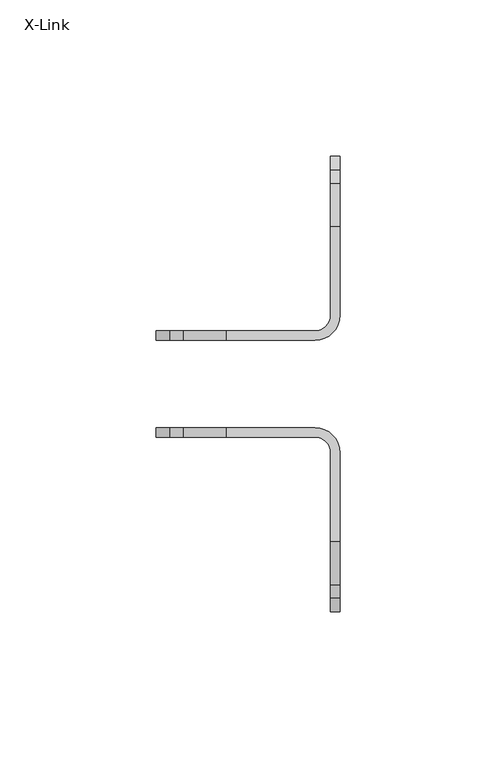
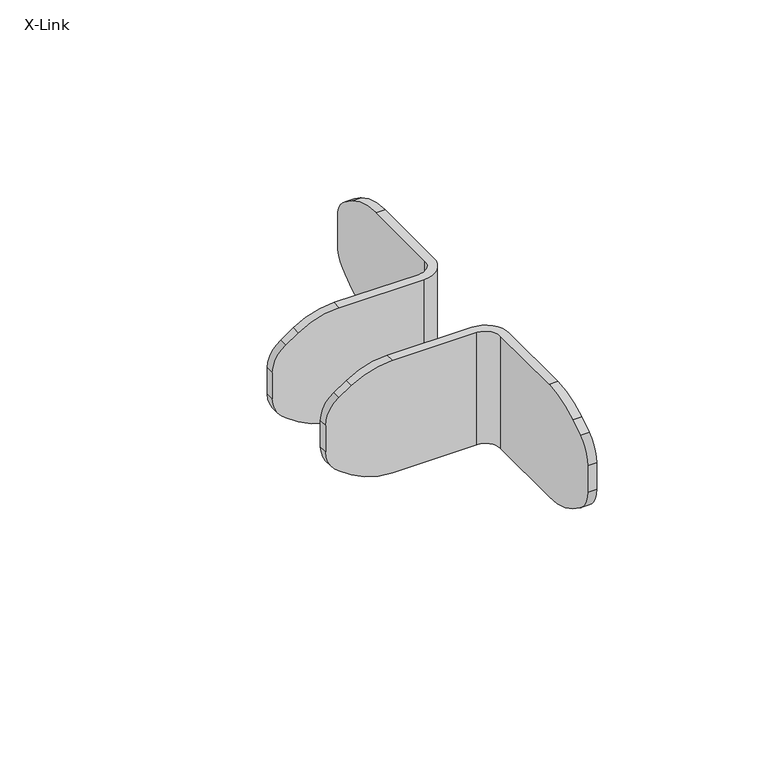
"""IFC4 building model written with IfcOpenShell, lengths in millimetres: furniture geometry, DBLTD_Sixteen3_PrivacyScreens_Artus_Bracket : X-Link."""

from ifc_helpers import new_model, si_unit, frame, origin, place, context, project, spatial, polyline, circle_curve, source, transform, mapped, element, save
from ifc_brep_helpers import plane_surface, cylinder_surface, revolved_surface, advanced_brep


def x_link_8aea4371(model_context):
    return source(origin(), model_context, "Body", "AdvancedBrep", [
        advanced_brep(
        [(-22.0, 803.0, 120.0), (-17.0, 798.0, 120.0), (-17.0, 769.5693909, 120.0), (-14.0, 769.5693909, 120.0), (-14.0, 798.0, 120.0), (-22.0, 806.0, 120.0), (-50.4306091, 806.0, 120.0), (-50.4306091, 803.0, 120.0), (-22.0, 806.0, 80.0), (-14.0, 798.0, 80.0), (-14.0, 769.5693909, 80.0), (-17.0, 769.5693909, 80.0), (-17.0, 798.0, 80.0), (-22.0, 803.0, 80.0), (-50.4306091, 803.0, 80.0), (-50.4306091, 806.0, 80.0), (-17.0, 755.701886, 84.1987426), (-17.0, 751.452998, 87.0313346), (-17.0, 747.0, 95.3518376), (-17.0, 747.0, 104.6481624), (-17.0, 751.452998, 112.9686654), (-17.0, 755.701886, 115.8012574), (-14.0, 747.0, 95.3518376), (-14.0, 747.0, 104.6481624), (-14.0, 755.701886, 115.8012574), (-14.0, 751.452998, 112.9686654), (-14.0, 751.452998, 87.0313346), (-14.0, 755.701886, 84.1987426), (-64.298114, 806.0, 84.1987426), (-68.547002, 806.0, 87.0313346), (-73.0, 806.0, 95.3518376), (-73.0, 806.0, 104.6481624), (-68.547002, 806.0, 112.9686654), (-64.298114, 806.0, 115.8012574), (-73.0, 803.0, 95.3518376), (-73.0, 803.0, 104.6481624), (-64.298114, 803.0, 115.8012574), (-68.547002, 803.0, 112.9686654), (-68.547002, 803.0, 87.0313346), (-64.298114, 803.0, 84.1987426)],
        [
            (0, 1, circle_curve(frame((-22.0, 798.0, 120.0), z_axis=(0.0, 0.0, -1.0), x_axis=(0.0, 1.0, 0.0)), 5.0)),
            (1, 2),
            (2, 3),
            (3, 4),
            (4, 5, circle_curve(frame((-22.0, 798.0, 120.0), z_axis=(0.0, 0.0, 1.0), x_axis=(0.0, 1.0, 0.0)), 8.0)),
            (5, 6),
            (6, 7),
            (7, 0),
            (8, 9, circle_curve(frame((-22.0, 798.0, 80.0), z_axis=(0.0, 0.0, -1.0), x_axis=(0.0, 1.0, 0.0)), 8.0)),
            (9, 10),
            (10, 11),
            (11, 12),
            (12, 13, circle_curve(frame((-22.0, 798.0, 80.0), z_axis=(0.0, 0.0, 1.0), x_axis=(0.0, 1.0, 0.0)), 5.0)),
            (13, 14),
            (14, 15),
            (15, 8),
            (0, 13),
            (12, 1),
            (11, 16, circle_curve(frame((-17.0, 769.5693909, 105.0), z_axis=(-1.0, 0.0, 0.0), x_axis=(0.0, 1.0, 0.0)), 25.0)),
            (16, 17),
            (17, 18, circle_curve(frame((-17.0, 757.0, 95.3518376), z_axis=(-1.0, 0.0, 0.0), x_axis=(0.0, 1.0, 0.0)), 10.0)),
            (18, 19),
            (19, 20, circle_curve(frame((-17.0, 757.0, 104.6481624), z_axis=(-1.0, 0.0, 0.0), x_axis=(0.0, 1.0, 0.0)), 10.0)),
            (20, 21),
            (21, 2, circle_curve(frame((-17.0, 769.5693909, 95.0), z_axis=(-1.0, 0.0, 0.0), x_axis=(0.0, 1.0, 0.0)), 25.0)),
            (18, 22),
            (22, 23),
            (23, 19),
            (9, 4),
            (3, 24, circle_curve(frame((-14.0, 769.5693909, 95.0), z_axis=(1.0, 0.0, 0.0), x_axis=(0.0, 1.0, 0.0)), 25.0)),
            (24, 25),
            (25, 23, circle_curve(frame((-14.0, 757.0, 104.6481624), z_axis=(1.0, 0.0, 0.0), x_axis=(0.0, 1.0, 0.0)), 10.0)),
            (22, 26, circle_curve(frame((-14.0, 757.0, 95.3518376), z_axis=(1.0, 0.0, 0.0), x_axis=(0.0, 1.0, 0.0)), 10.0)),
            (26, 27),
            (27, 10, circle_curve(frame((-14.0, 769.5693909, 105.0), z_axis=(1.0, 0.0, 0.0), x_axis=(0.0, 1.0, 0.0)), 25.0)),
            (8, 5),
            (15, 28, circle_curve(frame((-50.4306091, 806.0, 105.0), z_axis=(0.0, 1.0, 0.0), x_axis=(1.0, 0.0, 0.0)), 25.0)),
            (28, 29),
            (29, 30, circle_curve(frame((-63.0, 806.0, 95.3518376), z_axis=(0.0, 1.0, 0.0), x_axis=(1.0, 0.0, 0.0)), 10.0)),
            (30, 31),
            (31, 32, circle_curve(frame((-63.0, 806.0, 104.6481624), z_axis=(0.0, 1.0, 0.0), x_axis=(1.0, 0.0, 0.0)), 10.0)),
            (32, 33),
            (33, 6, circle_curve(frame((-50.4306091, 806.0, 95.0), z_axis=(0.0, 1.0, 0.0), x_axis=(1.0, 0.0, 0.0)), 25.0)),
            (30, 34),
            (34, 35),
            (35, 31),
            (7, 36, circle_curve(frame((-50.4306091, 803.0, 95.0), z_axis=(0.0, -1.0, 0.0), x_axis=(1.0, 0.0, 0.0)), 25.0)),
            (36, 37),
            (37, 35, circle_curve(frame((-63.0, 803.0, 104.6481624), z_axis=(0.0, -1.0, 0.0), x_axis=(1.0, 0.0, 0.0)), 10.0)),
            (34, 38, circle_curve(frame((-63.0, 803.0, 95.3518376), z_axis=(0.0, -1.0, 0.0), x_axis=(1.0, 0.0, 0.0)), 10.0)),
            (38, 39),
            (39, 14, circle_curve(frame((-50.4306091, 803.0, 105.0), z_axis=(0.0, -1.0, 0.0), x_axis=(1.0, 0.0, 0.0)), 25.0)),
            (39, 28),
            (38, 29),
            (37, 32),
            (36, 33),
            (17, 26),
            (16, 27),
            (21, 24),
            (20, 25),
        ],
        [
            plane_surface(frame((-22.0, 803.0, 120.0), z_axis=(0.0, 0.0, 1.0), x_axis=(1.0, 0.0, 0.0))),
            plane_surface(frame((-22.0, 803.0, 80.0), z_axis=(0.0, 0.0, -1.0), x_axis=(-1.0, 0.0, 0.0))),
            revolved_surface(polyline([(-22.0, 803.0, 80.0), (-22.0, 803.0, 120.0)]), (-22.0, 798.0, 80.0), (0.0, 0.0, -1.0)),
            plane_surface(frame((-17.0, 798.0, 120.0), z_axis=(-1.0, 0.0, 0.0), x_axis=(0.0, 0.0, -1.0))),
            plane_surface(frame((-17.0, 747.0, 120.0), z_axis=(0.0, -1.0, 0.0), x_axis=(0.0, 0.0, -1.0))),
            plane_surface(frame((-14.0, 747.0, 120.0), z_axis=(1.0, 0.0, 0.0), x_axis=(0.0, 0.0, -1.0))),
            cylinder_surface(frame((-22.0, 798.0, 80.0), z_axis=(0.0, 0.0, 1.0), x_axis=(0.0, 1.0, 0.0)), 8.0),
            plane_surface(frame((-22.0, 806.0, 120.0), z_axis=(0.0, 1.0, 0.0), x_axis=(0.0, 0.0, -1.0))),
            plane_surface(frame((-73.0, 806.0, 120.0), z_axis=(-1.0, 0.0, 0.0), x_axis=(0.0, 0.0, -1.0))),
            plane_surface(frame((-73.0, 803.0, 120.0), z_axis=(0.0, -1.0, 0.0), x_axis=(0.0, 0.0, -1.0))),
            cylinder_surface(frame((-50.4306091, 837.0, 105.0), z_axis=(0.0, 1.0, 0.0), x_axis=(1.0, 0.0, 0.0)), 25.0),
            plane_surface(frame((-64.298114, 803.0, 84.1987426), z_axis=(-0.5547001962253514, 0.0, -0.8320502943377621), x_axis=(0.0, 1.0, 0.0))),
            cylinder_surface(frame((-63.0, 837.0, 95.3518376), z_axis=(0.0, 1.0, 0.0), x_axis=(1.0, 0.0, 0.0)), 10.0),
            cylinder_surface(frame((-63.0, 0.0, 104.6481624), z_axis=(0.0, 1.0, 0.0), x_axis=(1.0, 0.0, 0.0)), 10.0),
            plane_surface(frame((-68.547002, 803.0, 112.9686654), z_axis=(-0.5547001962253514, 0.0, 0.8320502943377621), x_axis=(0.0, 1.0, 0.0))),
            cylinder_surface(frame((-50.4306091, 0.0, 95.0), z_axis=(0.0, 1.0, 0.0), x_axis=(1.0, 0.0, 0.0)), 25.0),
            cylinder_surface(frame((820.0, 757.0, 95.3518376), z_axis=(-1.0, 0.0, 0.0), x_axis=(0.0, 1.0, 0.0)), 10.0),
            plane_surface(frame((17.0, 755.701886, 84.1987426), z_axis=(0.0, -0.5547001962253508, -0.8320502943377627), x_axis=(-1.0, 0.0, 0.0))),
            cylinder_surface(frame((820.0, 769.5693909, 105.0), z_axis=(-1.0, 0.0, 0.0), x_axis=(0.0, 1.0, 0.0)), 25.0),
            cylinder_surface(frame((820.0, 769.5693909, 95.0), z_axis=(-1.0, 0.0, 0.0), x_axis=(0.0, 1.0, 0.0)), 25.0),
            plane_surface(frame((17.0, 751.452998, 112.9686654), z_axis=(0.0, -0.5547001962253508, 0.8320502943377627), x_axis=(-1.0, 0.0, 0.0))),
            cylinder_surface(frame((820.0, 757.0, 104.6481624), z_axis=(-1.0, 0.0, 0.0), x_axis=(0.0, 1.0, 0.0)), 10.0),
        ],
        [
            (0, [[1, 2, 3, 4, 5, 6, 7, 8]]),
            (1, [[9, 10, 11, 12, 13, 14, 15, 16]]),
            (2, [[-1, 17, -13, 18]]),
            (3, [[-18, -12, 19, 20, 21, 22, 23, 24, 25, -2]]),
            (4, [[-22, 26, 27, 28]]),
            (5, [[29, -4, 30, 31, 32, -27, 33, 34, 35, -10]]),
            (6, [[-5, -29, -9, 36]]),
            (7, [[-36, -16, 37, 38, 39, 40, 41, 42, 43, -6]]),
            (8, [[-40, 44, 45, 46]]),
            (9, [[-17, -8, 47, 48, 49, -45, 50, 51, 52, -14]]),
            (10, [[53, -37, -15, -52]]),
            (11, [[-53, -51, 54, -38]]),
            (12, [[-54, -50, -44, -39]]),
            (13, [[55, -41, -46, -49]]),
            (14, [[-55, -48, 56, -42]]),
            (15, [[-56, -47, -7, -43]]),
            (16, [[57, -33, -26, -21]]),
            (17, [[-57, -20, 58, -34]]),
            (18, [[-58, -19, -11, -35]]),
            (19, [[59, -30, -3, -25]]),
            (20, [[-59, -24, 60, -31]]),
            (21, [[-60, -23, -28, -32]]),
        ],
    ),
        advanced_brep(
        [(-17.0, 842.0, 120.0), (-22.0, 837.0, 120.0), (-50.4306091, 837.0, 120.0), (-50.4306091, 834.0, 120.0), (-22.0, 834.0, 120.0), (-14.0, 842.0, 120.0), (-14.0, 870.4306091, 120.0), (-17.0, 870.4306091, 120.0), (-14.0, 842.0, 80.0), (-22.0, 834.0, 80.0), (-50.4306091, 834.0, 80.0), (-50.4306091, 837.0, 80.0), (-22.0, 837.0, 80.0), (-17.0, 842.0, 80.0), (-17.0, 870.4306091, 80.0), (-14.0, 870.4306091, 80.0), (-64.298114, 837.0, 84.1987426), (-68.547002, 837.0, 87.0313346), (-73.0, 837.0, 95.3518376), (-73.0, 837.0, 104.6481624), (-68.547002, 837.0, 112.9686654), (-64.298114, 837.0, 115.8012574), (-73.0, 834.0, 95.3518376), (-73.0, 834.0, 104.6481624), (-64.298114, 834.0, 115.8012574), (-68.547002, 834.0, 112.9686654), (-68.547002, 834.0, 87.0313346), (-64.298114, 834.0, 84.1987426), (-14.0, 884.298114, 84.1987426), (-14.0, 888.547002, 87.0313346), (-14.0, 893.0, 95.3518376), (-14.0, 893.0, 104.6481624), (-14.0, 888.547002, 112.9686654), (-14.0, 884.298114, 115.8012574), (-17.0, 893.0, 95.3518376), (-17.0, 893.0, 104.6481624), (-17.0, 884.298114, 115.8012574), (-17.0, 888.547002, 112.9686654), (-17.0, 888.547002, 87.0313346), (-17.0, 884.298114, 84.1987426)],
        [
            (0, 1, circle_curve(frame((-22.0, 842.0, 120.0), z_axis=(0.0, 0.0, -1.0), x_axis=(1.0, 0.0, 0.0)), 5.0)),
            (1, 2),
            (2, 3),
            (3, 4),
            (4, 5, circle_curve(frame((-22.0, 842.0, 120.0), z_axis=(0.0, 0.0, 1.0), x_axis=(1.0, 0.0, 0.0)), 8.0)),
            (5, 6),
            (6, 7),
            (7, 0),
            (8, 9, circle_curve(frame((-22.0, 842.0, 80.0), z_axis=(0.0, 0.0, -1.0), x_axis=(1.0, 0.0, 0.0)), 8.0)),
            (9, 10),
            (10, 11),
            (11, 12),
            (12, 13, circle_curve(frame((-22.0, 842.0, 80.0), z_axis=(0.0, 0.0, 1.0), x_axis=(1.0, 0.0, 0.0)), 5.0)),
            (13, 14),
            (14, 15),
            (15, 8),
            (0, 13),
            (12, 1),
            (11, 16, circle_curve(frame((-50.4306091, 837.0, 105.0), z_axis=(0.0, 1.0, 0.0), x_axis=(1.0, 0.0, 0.0)), 25.0)),
            (16, 17),
            (17, 18, circle_curve(frame((-63.0, 837.0, 95.3518376), z_axis=(0.0, 1.0, 0.0), x_axis=(1.0, 0.0, 0.0)), 10.0)),
            (18, 19),
            (19, 20, circle_curve(frame((-63.0, 837.0, 104.6481624), z_axis=(0.0, 1.0, 0.0), x_axis=(1.0, 0.0, 0.0)), 10.0)),
            (20, 21),
            (21, 2, circle_curve(frame((-50.4306091, 837.0, 95.0), z_axis=(0.0, 1.0, 0.0), x_axis=(1.0, 0.0, 0.0)), 25.0)),
            (18, 22),
            (22, 23),
            (23, 19),
            (9, 4),
            (3, 24, circle_curve(frame((-50.4306091, 834.0, 95.0), z_axis=(0.0, -1.0, 0.0), x_axis=(1.0, 0.0, 0.0)), 25.0)),
            (24, 25),
            (25, 23, circle_curve(frame((-63.0, 834.0, 104.6481624), z_axis=(0.0, -1.0, 0.0), x_axis=(1.0, 0.0, 0.0)), 10.0)),
            (22, 26, circle_curve(frame((-63.0, 834.0, 95.3518376), z_axis=(0.0, -1.0, 0.0), x_axis=(1.0, 0.0, 0.0)), 10.0)),
            (26, 27),
            (27, 10, circle_curve(frame((-50.4306091, 834.0, 105.0), z_axis=(0.0, -1.0, 0.0), x_axis=(1.0, 0.0, 0.0)), 25.0)),
            (8, 5),
            (15, 28, circle_curve(frame((-14.0, 870.4306091, 105.0), z_axis=(1.0, 0.0, 0.0), x_axis=(0.0, -1.0, 0.0)), 25.0)),
            (28, 29),
            (29, 30, circle_curve(frame((-14.0, 883.0, 95.3518376), z_axis=(1.0, 0.0, 0.0), x_axis=(0.0, -1.0, 0.0)), 10.0)),
            (30, 31),
            (31, 32, circle_curve(frame((-14.0, 883.0, 104.6481624), z_axis=(1.0, 0.0, 0.0), x_axis=(0.0, -1.0, 0.0)), 10.0)),
            (32, 33),
            (33, 6, circle_curve(frame((-14.0, 870.4306091, 95.0), z_axis=(1.0, 0.0, 0.0), x_axis=(0.0, -1.0, 0.0)), 25.0)),
            (30, 34),
            (34, 35),
            (35, 31),
            (7, 36, circle_curve(frame((-17.0, 870.4306091, 95.0), z_axis=(-1.0, 0.0, 0.0), x_axis=(0.0, -1.0, 0.0)), 25.0)),
            (36, 37),
            (37, 35, circle_curve(frame((-17.0, 883.0, 104.6481624), z_axis=(-1.0, 0.0, 0.0), x_axis=(0.0, -1.0, 0.0)), 10.0)),
            (34, 38, circle_curve(frame((-17.0, 883.0, 95.3518376), z_axis=(-1.0, 0.0, 0.0), x_axis=(0.0, -1.0, 0.0)), 10.0)),
            (38, 39),
            (39, 14, circle_curve(frame((-17.0, 870.4306091, 105.0), z_axis=(-1.0, 0.0, 0.0), x_axis=(0.0, -1.0, 0.0)), 25.0)),
            (27, 16),
            (26, 17),
            (25, 20),
            (24, 21),
            (39, 28),
            (38, 29),
            (37, 32),
            (36, 33),
        ],
        [
            plane_surface(frame((-17.0, 842.0, 120.0), z_axis=(0.0, 0.0, 1.0), x_axis=(0.0, -1.0, 0.0))),
            plane_surface(frame((-17.0, 842.0, 80.0), z_axis=(0.0, 0.0, -1.0), x_axis=(0.0, 1.0, 0.0))),
            revolved_surface(polyline([(-17.0, 842.0, 80.0), (-17.0, 842.0, 120.0)]), (-22.0, 842.0, 80.0), (0.0, 0.0, -1.0)),
            plane_surface(frame((-22.0, 837.0, 120.0), z_axis=(0.0, 1.0, 0.0), x_axis=(0.0, 0.0, -1.0))),
            plane_surface(frame((-73.0, 837.0, 120.0), z_axis=(-1.0, 0.0, 0.0), x_axis=(0.0, 0.0, -1.0))),
            plane_surface(frame((-73.0, 834.0, 120.0), z_axis=(0.0, -1.0, 0.0), x_axis=(0.0, 0.0, -1.0))),
            cylinder_surface(frame((-22.0, 842.0, 80.0), z_axis=(0.0, 0.0, 1.0), x_axis=(1.0, 0.0, 0.0)), 8.0),
            plane_surface(frame((-14.0, 842.0, 120.0), z_axis=(1.0, 0.0, 0.0), x_axis=(0.0, 0.0, -1.0))),
            plane_surface(frame((-14.0, 893.0, 120.0), z_axis=(0.0, 1.0, 0.0), x_axis=(0.0, 0.0, -1.0))),
            plane_surface(frame((-17.0, 893.0, 120.0), z_axis=(-1.0, 0.0, 0.0), x_axis=(0.0, 0.0, -1.0))),
            cylinder_surface(frame((-50.4306091, 837.0, 105.0), z_axis=(0.0, 1.0, 0.0), x_axis=(1.0, 0.0, 0.0)), 25.0),
            plane_surface(frame((-64.298114, 803.0, 84.1987426), z_axis=(-0.5547001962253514, 0.0, -0.8320502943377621), x_axis=(0.0, 1.0, 0.0))),
            cylinder_surface(frame((-63.0, 837.0, 95.3518376), z_axis=(0.0, 1.0, 0.0), x_axis=(1.0, 0.0, 0.0)), 10.0),
            cylinder_surface(frame((-63.0, 0.0, 104.6481624), z_axis=(0.0, 1.0, 0.0), x_axis=(1.0, 0.0, 0.0)), 10.0),
            plane_surface(frame((-68.547002, 803.0, 112.9686654), z_axis=(-0.5547001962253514, 0.0, 0.8320502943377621), x_axis=(0.0, 1.0, 0.0))),
            cylinder_surface(frame((-50.4306091, 0.0, 95.0), z_axis=(0.0, 1.0, 0.0), x_axis=(1.0, 0.0, 0.0)), 25.0),
            cylinder_surface(frame((-17.0, 870.4306091, 105.0), z_axis=(-1.0, 0.0, 0.0), x_axis=(0.0, -1.0, 0.0)), 25.0),
            plane_surface(frame((17.0, 888.547002, 87.0313346), z_axis=(0.0, 0.5547001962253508, -0.8320502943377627), x_axis=(-1.0, 0.0, 0.0))),
            cylinder_surface(frame((-17.0, 883.0, 95.3518376), z_axis=(-1.0, 0.0, 0.0), x_axis=(0.0, -1.0, 0.0)), 10.0),
            cylinder_surface(frame((820.0, 883.0, 104.6481624), z_axis=(-1.0, 0.0, 0.0), x_axis=(0.0, -1.0, 0.0)), 10.0),
            plane_surface(frame((17.0, 884.298114, 115.8012574), z_axis=(0.0, 0.5547001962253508, 0.8320502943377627), x_axis=(-1.0, 0.0, 0.0))),
            cylinder_surface(frame((820.0, 870.4306091, 95.0), z_axis=(-1.0, 0.0, 0.0), x_axis=(0.0, -1.0, 0.0)), 25.0),
        ],
        [
            (0, [[1, 2, 3, 4, 5, 6, 7, 8]]),
            (1, [[9, 10, 11, 12, 13, 14, 15, 16]]),
            (2, [[-1, 17, -13, 18]]),
            (3, [[-18, -12, 19, 20, 21, 22, 23, 24, 25, -2]]),
            (4, [[-22, 26, 27, 28]]),
            (5, [[29, -4, 30, 31, 32, -27, 33, 34, 35, -10]]),
            (6, [[-5, -29, -9, 36]]),
            (7, [[-36, -16, 37, 38, 39, 40, 41, 42, 43, -6]]),
            (8, [[-40, 44, 45, 46]]),
            (9, [[-17, -8, 47, 48, 49, -45, 50, 51, 52, -14]]),
            (10, [[53, -19, -11, -35]]),
            (11, [[-53, -34, 54, -20]]),
            (12, [[-54, -33, -26, -21]]),
            (13, [[55, -23, -28, -32]]),
            (14, [[-55, -31, 56, -24]]),
            (15, [[-56, -30, -3, -25]]),
            (16, [[57, -37, -15, -52]]),
            (17, [[-57, -51, 58, -38]]),
            (18, [[-58, -50, -44, -39]]),
            (19, [[59, -41, -46, -49]]),
            (20, [[-59, -48, 60, -42]]),
            (21, [[-60, -47, -7, -43]]),
        ],
    ),
    ])


if __name__ == "__main__":
    model = new_model("IFC4")
    model_context = context("Model", 3, world=origin())
    ifc_project = project(units=[si_unit("LENGTHUNIT", "METRE", prefix="MILLI")], contexts=[model_context])
    site = spatial("IfcSite", under=ifc_project)
    building = spatial("IfcBuilding", under=site)
    placement = place(None, origin())
    x_link_shape = x_link_8aea4371(model_context)
    element("IfcFurniture", 1, ObjectType="DBLTD_Sixteen3_PrivacyScreens_Artus_Bracket : X-Link", at=placement, inside=building, context=model_context, shape_type="MappedRepresentation", body=[
        mapped(x_link_shape, transform((0.0, 0.0, 0.0), x_axis=(1.0, 0.0, 0.0), y_axis=(0.0, 1.0, 0.0), z_axis=(0.0, 0.0, 1.0))),
    ])
    save(model, "model.ifc")
